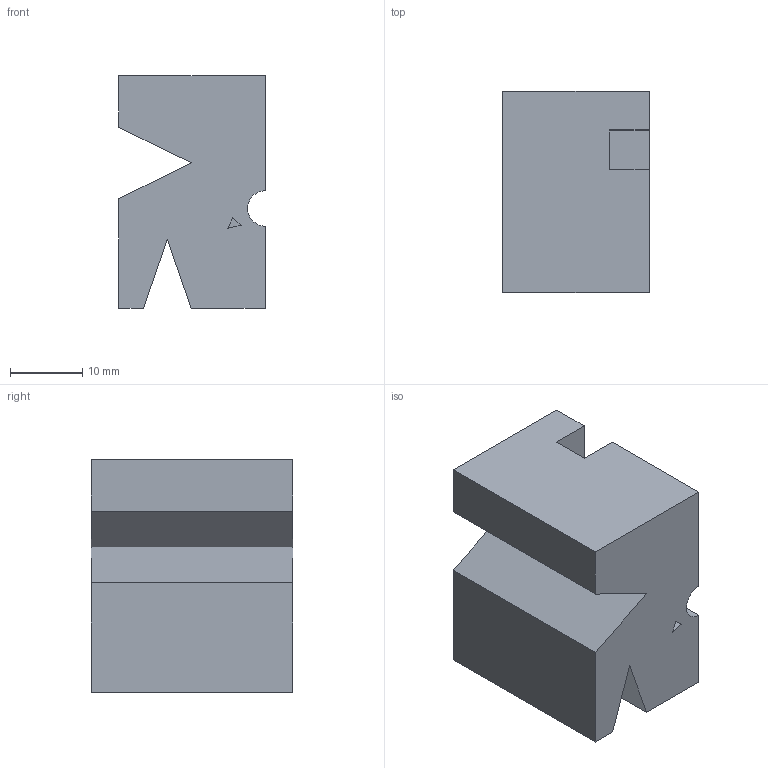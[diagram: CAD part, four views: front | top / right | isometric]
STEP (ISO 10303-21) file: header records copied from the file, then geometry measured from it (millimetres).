
FILE_DESCRIPTION(('Open CASCADE Model'),'2;1');
FILE_NAME('Open CASCADE Shape Model','2021-04-27T21:52:09',('Author'),( 'Open CASCADE'),'Open CASCADE STEP processor 7.4','Open CASCADE 7.4' ,'Unknown');
FILE_SCHEMA(('AUTOMOTIVE_DESIGN { 1 0 10303 214 1 1 1 1 }'));
Length unit declared in the file: millimetre
Products named in the file (1): Open CASCADE STEP translator 7.4 189
Bounding box: 20.23 x 27.78 x 32.14 mm (x, y, z)
Volume: 15336.6 mm3; surface area: 5056.5 mm2
Topology: 1 solids, 1 shells, 26 faces, 66 edges, 44 vertices
Faces by surface type: plane 25, cylinder 1
Entity records: 1638 total; most frequent: CARTESIAN_POINT 289, DIRECTION 244, LINE 186, VECTOR 186, ORIENTED_EDGE 132, PCURVE 132, DEFINITIONAL_REPRESENTATION 132, EDGE_CURVE 66
